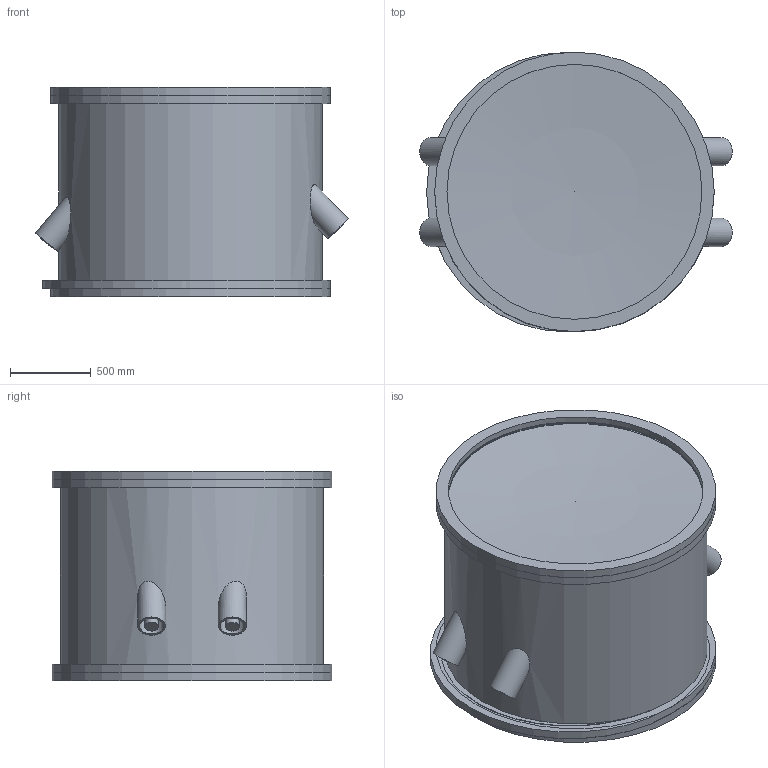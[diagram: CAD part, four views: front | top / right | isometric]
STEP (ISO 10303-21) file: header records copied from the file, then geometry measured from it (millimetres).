
FILE_DESCRIPTION( ( 'Unknown' ), '1' );
FILE_NAME( 'C:/Users/work/Documents/Solid Edge/heavy_gas_cherenkov/step/detector.step', 'Unknown', ( 'Unknown' ), ( 'Unknown' ), 'PSStep 10.1', 'Unknown', ' ' );
FILE_SCHEMA( ( 'AUTOMOTIVE_DESIGN { 1 0 10303 214 1 1 1 1 }' ) );
Length unit declared in the file: millimetre
Products named in the file (14): quartz_window; Assem1; mirror; quartz_holder; rohacell_cut_corners_round; sphere_mirror_negx_posy; sphere_mirror_negx_negy; sphere_mirror_posx_negy; sphere_mirror_posx_posy; window; window_clamp; vessel; pmt
Bounding box: 1936.37 x 1732.4 x 1300 mm (x, y, z)
Volume: 867555347.5 mm3; surface area: 70167046.3 mm2
Topology: 40 solids, 40 shells, 291 faces, 514 edges, 340 vertices
Faces by surface type: plane 147, cylinder 121, torus 12, sphere 6, cone 5
Full cylindrical faces by diameter (mm): 85 x10, 150 x19, 170 x12, 175.4 x16, 255.4 x14, 1580 x8, 1630.8 x2, 1732.4 x10
Entity records: 4531 total; most frequent: CARTESIAN_POINT 1706, DIRECTION 434, ORIENTED_EDGE 254, AXIS2_PLACEMENT_3D 197, EDGE_LOOP 164, FACE_OUTER_BOUND 131, EDGE_CURVE 127, VERTEX_POINT 107
